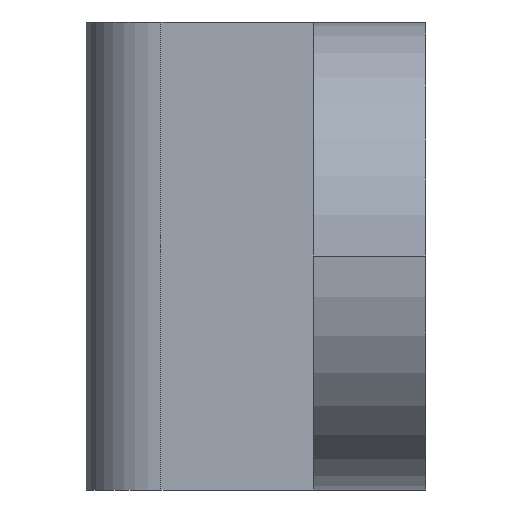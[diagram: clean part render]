
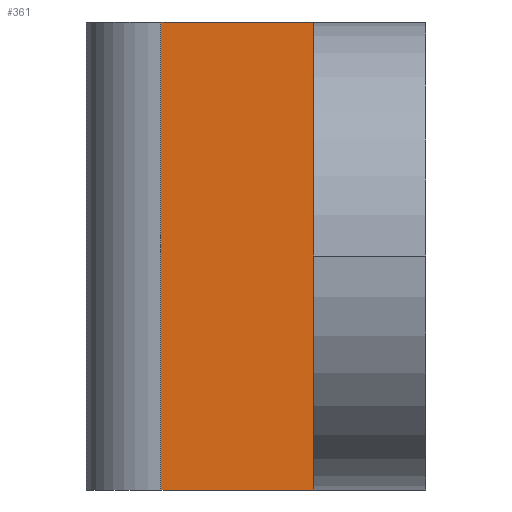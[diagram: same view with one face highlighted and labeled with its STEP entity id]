
A CAD part, left-side view. The second image highlights one B-rep face of the part: STEP entity #361.
In plain terms, the highlighted planar face has unit normal (-1, 0, 0).
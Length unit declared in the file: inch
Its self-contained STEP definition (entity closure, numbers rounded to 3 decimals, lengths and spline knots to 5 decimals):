
#7 = VECTOR ( 'NONE', #669, 39.37008 ) ;
#13 = CARTESIAN_POINT ( 'NONE',  ( -0.46853, 0.363, 0.25 ) ) ;
#45 = CARTESIAN_POINT ( 'NONE',  ( -0.46853, 0.363, 0.25 ) ) ;
#49 = LINE ( 'NONE', #45, #253 ) ;
#82 = EDGE_CURVE ( 'NONE', #300, #169, #684, .T. ) ;
#91 = DIRECTION ( 'NONE',  ( 1., 0., 0. ) ) ;
#142 = VECTOR ( 'NONE', #470, 39.37008 ) ;
#169 = VERTEX_POINT ( 'NONE', #537 ) ;
#178 = CARTESIAN_POINT ( 'NONE',  ( -0.46853, 0.283, 0.25 ) ) ;
#183 = DIRECTION ( 'NONE',  ( 0., 0., -1. ) ) ;
#216 = ORIENTED_EDGE ( 'NONE', *, *, #843, .F. ) ;
#228 = CARTESIAN_POINT ( 'NONE',  ( -0.46853, 0.283, -0.25 ) ) ;
#235 = CARTESIAN_POINT ( 'NONE',  ( -0.46853, 0.12, 0.25 ) ) ;
#247 = EDGE_CURVE ( 'NONE', #642, #169, #313, .T. ) ;
#253 = VECTOR ( 'NONE', #987, 39.37008 ) ;
#300 = VERTEX_POINT ( 'NONE', #228 ) ;
#302 = EDGE_LOOP ( 'NONE', ( #216, #771, #339, #587 ) ) ;
#313 = LINE ( 'NONE', #702, #142 ) ;
#326 = VERTEX_POINT ( 'NONE', #872 ) ;
#339 = ORIENTED_EDGE ( 'NONE', *, *, #82, .T. ) ;
#361 = ADVANCED_FACE ( 'NONE', ( #713 ), #485, .F. ) ;
#368 = AXIS2_PLACEMENT_3D ( 'NONE', #13, #91, #965 ) ;
#470 = DIRECTION ( 'NONE',  ( 0., 0., -1. ) ) ;
#485 = PLANE ( 'NONE',  #368 ) ;
#537 = CARTESIAN_POINT ( 'NONE',  ( -0.46853, 0.12, -0.25 ) ) ;
#562 = LINE ( 'NONE', #178, #923 ) ;
#587 = ORIENTED_EDGE ( 'NONE', *, *, #247, .F. ) ;
#642 = VERTEX_POINT ( 'NONE', #235 ) ;
#665 = CARTESIAN_POINT ( 'NONE',  ( -0.46853, 0.363, -0.25 ) ) ;
#669 = DIRECTION ( 'NONE',  ( 0., -1., 0. ) ) ;
#684 = LINE ( 'NONE', #665, #7 ) ;
#702 = CARTESIAN_POINT ( 'NONE',  ( -0.46853, 0.12, 0.25 ) ) ;
#713 = FACE_OUTER_BOUND ( 'NONE', #302, .T. ) ;
#735 = EDGE_CURVE ( 'NONE', #326, #300, #562, .T. ) ;
#771 = ORIENTED_EDGE ( 'NONE', *, *, #735, .T. ) ;
#843 = EDGE_CURVE ( 'NONE', #326, #642, #49, .T. ) ;
#872 = CARTESIAN_POINT ( 'NONE',  ( -0.46853, 0.283, 0.25 ) ) ;
#923 = VECTOR ( 'NONE', #183, 39.37008 ) ;
#965 = DIRECTION ( 'NONE',  ( 0., 0., -1. ) ) ;
#987 = DIRECTION ( 'NONE',  ( 0., -1., 0. ) ) ;
